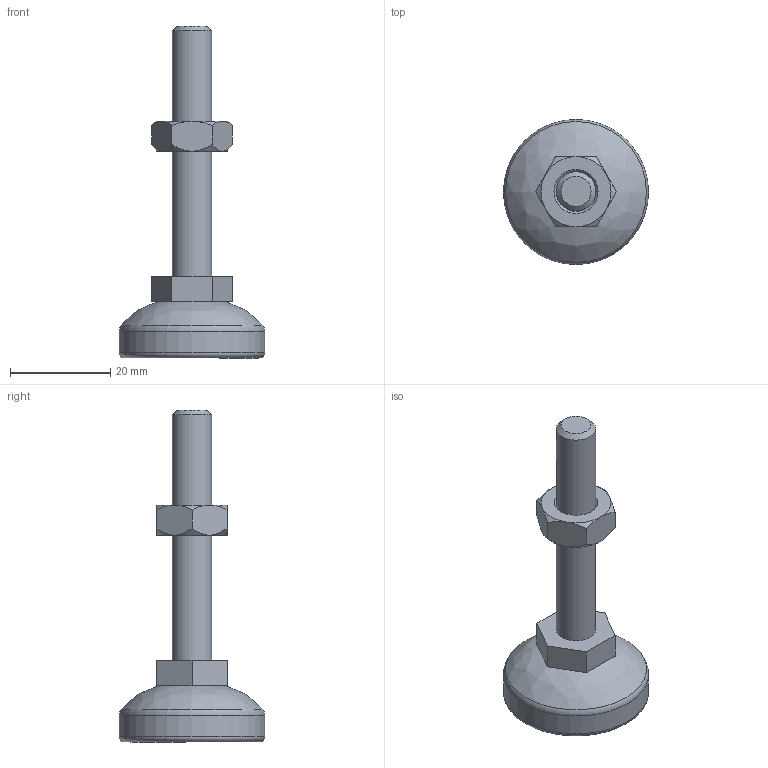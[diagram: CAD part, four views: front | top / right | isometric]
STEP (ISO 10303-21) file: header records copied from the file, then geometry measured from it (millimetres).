
FILE_DESCRIPTION(/* description */ ('STEP AP203'),/* implementation_level */ '2;1');
FILE_NAME(/* name */ 'Fixed Levelling Foot - Nylon 29mm - M8 - 50mm.step',/* time_stamp */ '2025-10-14T17:33:40+03:00',/* author */ (''),/* organization */ (''),/* preprocessor_version */ 'ST-DEVELOPER v20.1',/* originating_system */ 'Autodesk Translation Framework v14.17.0.0',/* authorisation */ '');
FILE_SCHEMA (('AUTOMOTIVE_DESIGN { 1 0 10303 214 3 1 1 }'));
Length unit declared in the file: millimetre
Products named in the file (1): 340.0401A.01
Bounding box: 29 x 29 x 66.3 mm (x, y, z)
Volume: 8640.6 mm3; surface area: 4692.4 mm2
Topology: 1 solids, 1 shells, 45 faces, 99 edges, 61 vertices
Faces by surface type: plane 19, cone 16, cylinder 6, torus 3, bspline 1
Full cylindrical faces by diameter (mm): 7.866 x2, 13.6 x1, 19 x1, 25 x1, 29 x1
Entity records: 1739 total; most frequent: CARTESIAN_POINT 760, DIRECTION 202, ORIENTED_EDGE 198, EDGE_CURVE 99, AXIS2_PLACEMENT_3D 84, VERTEX_POINT 61, EDGE_LOOP 50, FACE_OUTER_BOUND 45
